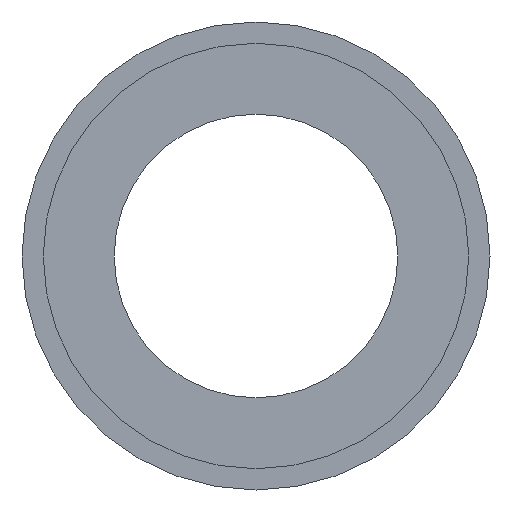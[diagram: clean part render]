
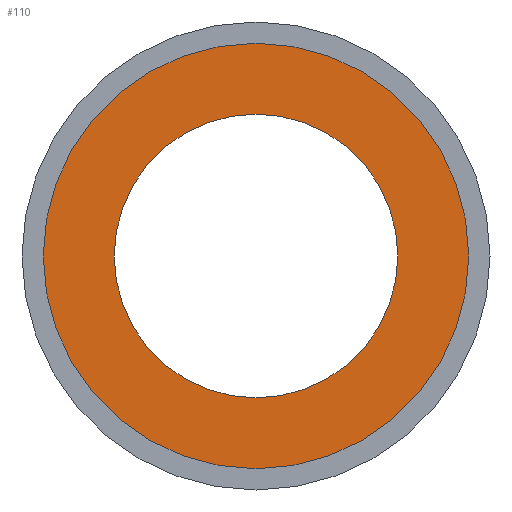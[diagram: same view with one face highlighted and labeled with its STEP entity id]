
A CAD part, front view. The second image highlights one B-rep face of the part: STEP entity #110.
In plain terms, the highlighted planar face has unit normal (0, -1, 0).
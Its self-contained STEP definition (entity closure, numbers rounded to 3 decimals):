
#32 = EDGE_CURVE ( 'NONE', #1077, #631, #377, .T. ) ;
#71 = CARTESIAN_POINT ( 'NONE',  ( 0., -16.5, 0. ) ) ;
#102 = AXIS2_PLACEMENT_3D ( 'NONE', #3576, #2967, #926 ) ;
#104 = DIRECTION ( 'NONE',  ( 0., 0., -1. ) ) ;
#110 = ADVANCED_FACE ( 'NONE', ( #3326, #1292 ), #1810, .F. ) ;
#377 = CIRCLE ( 'NONE', #2223, 30. ) ;
#486 = AXIS2_PLACEMENT_3D ( 'NONE', #3150, #2046, #1159 ) ;
#631 = VERTEX_POINT ( 'NONE', #3252 ) ;
#661 = ORIENTED_EDGE ( 'NONE', *, *, #32, .F. ) ;
#677 = DIRECTION ( 'NONE',  ( 0., -1., 0. ) ) ;
#689 = CARTESIAN_POINT ( 'NONE',  ( 0., -16.5, 0. ) ) ;
#781 = AXIS2_PLACEMENT_3D ( 'NONE', #71, #2370, #3243 ) ;
#873 = CARTESIAN_POINT ( 'NONE',  ( 0., -16.5, 0. ) ) ;
#926 = DIRECTION ( 'NONE',  ( 0., 0., 1. ) ) ;
#1077 = VERTEX_POINT ( 'NONE', #1733 ) ;
#1159 = DIRECTION ( 'NONE',  ( 0., 0., -1. ) ) ;
#1292 = FACE_OUTER_BOUND ( 'NONE', #2449, .T. ) ;
#1413 = ORIENTED_EDGE ( 'NONE', *, *, #2758, .T. ) ;
#1432 = CARTESIAN_POINT ( 'NONE',  ( 0., -16.5, -45. ) ) ;
#1727 = EDGE_CURVE ( 'NONE', #2656, #2536, #2013, .T. ) ;
#1733 = CARTESIAN_POINT ( 'NONE',  ( 0., -16.5, -30. ) ) ;
#1810 = PLANE ( 'NONE',  #102 ) ;
#1856 = DIRECTION ( 'NONE',  ( 0., 0., -1. ) ) ;
#2013 = CIRCLE ( 'NONE', #3024, 45. ) ;
#2046 = DIRECTION ( 'NONE',  ( 0., -1., 0. ) ) ;
#2191 = ORIENTED_EDGE ( 'NONE', *, *, #2637, .F. ) ;
#2223 = AXIS2_PLACEMENT_3D ( 'NONE', #689, #677, #104 ) ;
#2254 = ORIENTED_EDGE ( 'NONE', *, *, #1727, .T. ) ;
#2370 = DIRECTION ( 'NONE',  ( 0., -1., 0. ) ) ;
#2449 = EDGE_LOOP ( 'NONE', ( #2254, #1413 ) ) ;
#2536 = VERTEX_POINT ( 'NONE', #3103 ) ;
#2637 = EDGE_CURVE ( 'NONE', #631, #1077, #2796, .T. ) ;
#2656 = VERTEX_POINT ( 'NONE', #1432 ) ;
#2752 = CIRCLE ( 'NONE', #781, 45. ) ;
#2758 = EDGE_CURVE ( 'NONE', #2536, #2656, #2752, .T. ) ;
#2796 = CIRCLE ( 'NONE', #486, 30. ) ;
#2967 = DIRECTION ( 'NONE',  ( 0., 1., 0. ) ) ;
#3024 = AXIS2_PLACEMENT_3D ( 'NONE', #873, #3175, #1856 ) ;
#3103 = CARTESIAN_POINT ( 'NONE',  ( 0., -16.5, 45. ) ) ;
#3150 = CARTESIAN_POINT ( 'NONE',  ( 0., -16.5, 0. ) ) ;
#3175 = DIRECTION ( 'NONE',  ( 0., -1., 0. ) ) ;
#3243 = DIRECTION ( 'NONE',  ( 0., 0., -1. ) ) ;
#3252 = CARTESIAN_POINT ( 'NONE',  ( 0., -16.5, 30. ) ) ;
#3326 = FACE_BOUND ( 'NONE', #3647, .T. ) ;
#3576 = CARTESIAN_POINT ( 'NONE',  ( 0., -16.5, 30. ) ) ;
#3647 = EDGE_LOOP ( 'NONE', ( #661, #2191 ) ) ;
